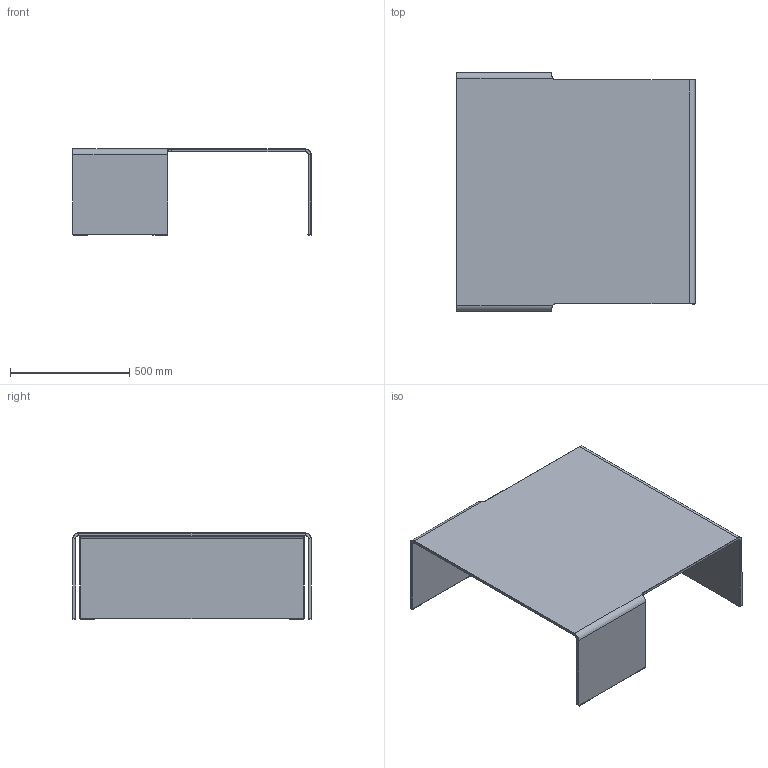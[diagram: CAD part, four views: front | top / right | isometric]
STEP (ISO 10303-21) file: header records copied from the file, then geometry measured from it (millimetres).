
FILE_DESCRIPTION((''),'2;1');
FILE_NAME('C:\AutodeskVault\AreaLavoro\Progetti\SoVeT Italia\2. Tavolini_Coffee tables\Spider\Web file\Spider Web\P4666.stp','2012-06-14T09:56:34',('Gianluca'),('So.Ve.T. s.r.l.'),'Autodesk Inventor 2013','Autodesk Inventor 2013','IL PROGETTO E'' DI ESCLUSIVA PROPRIETA'' DELLA SO.VE.T. srl. E'' VIETATA OGNI RIPRODUZIONE TOTALE O PARZIALE E QUALSIASI UTILIZZO NON AUTORIZZATO. ');
FILE_SCHEMA(('AUTOMOTIVE_DESIGN { 1 0 10303 214 1 1 1 1 }'));
Length unit declared in the file: millimetre
Products named in the file (1): P4666 Contorno semplificato
Bounding box: 1001.3 x 1002.6 x 361.2 mm (x, y, z)
Volume: 18667509.6 mm3; surface area: 3182861.7 mm2
Topology: 1 solids, 1 shells, 216 faces, 558 edges, 332 vertices
Faces by surface type: plane 116, cylinder 62, cone 28, bspline 10
Entity records: 8535 total; most frequent: CARTESIAN_POINT 2991, ORIENTED_EDGE 1116, DIRECTION 1104, EDGE_CURVE 558, VECTOR 386, LINE 386, AXIS2_PLACEMENT_3D 359, VERTEX_POINT 332
